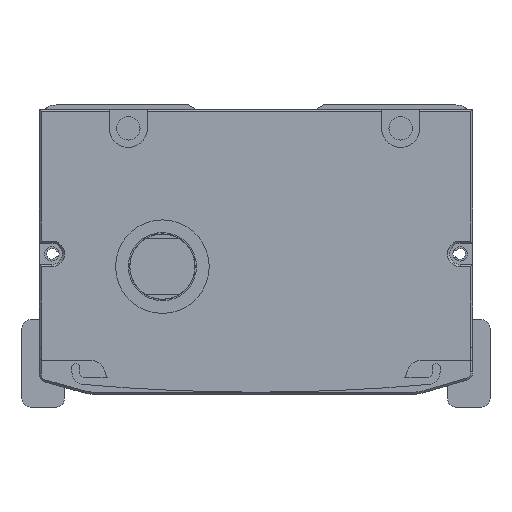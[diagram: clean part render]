
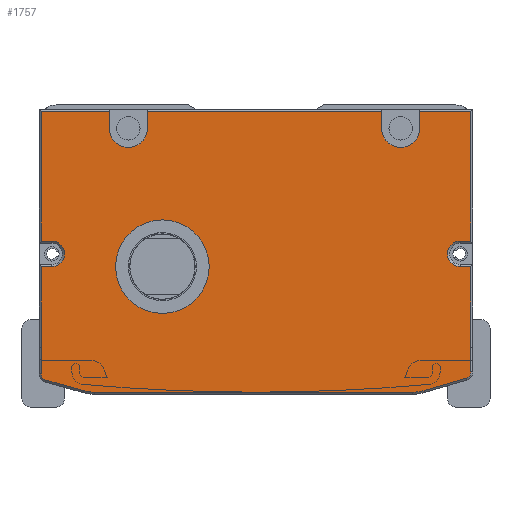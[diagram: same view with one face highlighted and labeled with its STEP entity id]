
A CAD part, front view. The second image highlights one B-rep face of the part: STEP entity #1757.
In plain terms, the highlighted planar face has unit normal (0, -1, 0).
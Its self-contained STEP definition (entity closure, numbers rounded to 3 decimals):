
#1034=FACE_BOUND('',#3651,.T.);
#1035=FACE_BOUND('',#3652,.T.);
#1757=ADVANCED_FACE('',(#1034,#1035),#2480,.F.);
#2480=PLANE('',#14782);
#3651=EDGE_LOOP('',(#6605));
#3652=EDGE_LOOP('',(#6606,#6607,#6608,#6609,#6610,#6611,#6612,#6613,#6614,
#6615,#6616,#6617,#6618,#6619,#6620,#6621,#6622,#6623,#6624,#6625,#6626,
#6627,#6628,#6629,#6630,#6631,#6632,#6633));
#4681=CIRCLE('',#14693,3.);
#4684=CIRCLE('',#14701,3.);
#4687=CIRCLE('',#14713,1.5);
#4689=CIRCLE('',#14717,9.5);
#4691=CIRCLE('',#14721,9.5);
#4693=CIRCLE('',#14725,1.5);
#4698=CIRCLE('',#14740,4.5);
#4702=CIRCLE('',#14746,4.5);
#4703=CIRCLE('',#14755,11.);
#6605=ORIENTED_EDGE('',*,*,#11184,.F.);
#6606=ORIENTED_EDGE('',*,*,#11078,.T.);
#6607=ORIENTED_EDGE('',*,*,#10974,.T.);
#6608=ORIENTED_EDGE('',*,*,#11165,.T.);
#6609=ORIENTED_EDGE('',*,*,#10978,.T.);
#6610=ORIENTED_EDGE('',*,*,#11213,.T.);
#6611=ORIENTED_EDGE('',*,*,#10984,.T.);
#6612=ORIENTED_EDGE('',*,*,#11161,.T.);
#6613=ORIENTED_EDGE('',*,*,#10988,.T.);
#6614=ORIENTED_EDGE('',*,*,#11214,.T.);
#6615=ORIENTED_EDGE('',*,*,#11082,.T.);
#6616=ORIENTED_EDGE('',*,*,#11088,.T.);
#6617=ORIENTED_EDGE('',*,*,#11091,.T.);
#6618=ORIENTED_EDGE('',*,*,#11094,.T.);
#6619=ORIENTED_EDGE('',*,*,#11096,.T.);
#6620=ORIENTED_EDGE('',*,*,#11126,.T.);
#6621=ORIENTED_EDGE('',*,*,#11130,.T.);
#6622=ORIENTED_EDGE('',*,*,#11133,.T.);
#6623=ORIENTED_EDGE('',*,*,#11136,.T.);
#6624=ORIENTED_EDGE('',*,*,#11139,.T.);
#6625=ORIENTED_EDGE('',*,*,#11142,.T.);
#6626=ORIENTED_EDGE('',*,*,#11145,.T.);
#6627=ORIENTED_EDGE('',*,*,#11147,.T.);
#6628=ORIENTED_EDGE('',*,*,#11124,.T.);
#6629=ORIENTED_EDGE('',*,*,#11114,.T.);
#6630=ORIENTED_EDGE('',*,*,#11111,.T.);
#6631=ORIENTED_EDGE('',*,*,#11108,.T.);
#6632=ORIENTED_EDGE('',*,*,#11105,.T.);
#6633=ORIENTED_EDGE('',*,*,#11100,.T.);
#9491=VERTEX_POINT('',#21787);
#9492=VERTEX_POINT('',#21789);
#9495=VERTEX_POINT('',#21796);
#9496=VERTEX_POINT('',#21798);
#9501=VERTEX_POINT('',#21809);
#9502=VERTEX_POINT('',#21811);
#9505=VERTEX_POINT('',#21818);
#9506=VERTEX_POINT('',#21820);
#9564=VERTEX_POINT('',#22006);
#9567=VERTEX_POINT('',#22014);
#9568=VERTEX_POINT('',#22015);
#9573=VERTEX_POINT('',#22026);
#9575=VERTEX_POINT('',#22032);
#9576=VERTEX_POINT('',#22037);
#9578=VERTEX_POINT('',#22043);
#9581=VERTEX_POINT('',#22051);
#9583=VERTEX_POINT('',#22057);
#9585=VERTEX_POINT('',#22063);
#9587=VERTEX_POINT('',#22069);
#9589=VERTEX_POINT('',#22075);
#9596=VERTEX_POINT('',#22099);
#9597=VERTEX_POINT('',#22103);
#9600=VERTEX_POINT('',#22110);
#9602=VERTEX_POINT('',#22116);
#9604=VERTEX_POINT('',#22122);
#9606=VERTEX_POINT('',#22128);
#9608=VERTEX_POINT('',#22134);
#9610=VERTEX_POINT('',#22140);
#9622=VERTEX_POINT('',#22213);
#10974=EDGE_CURVE('',#9492,#9491,#12639,.T.);
#10978=EDGE_CURVE('',#9496,#9495,#12643,.T.);
#10984=EDGE_CURVE('',#9502,#9501,#12649,.T.);
#10988=EDGE_CURVE('',#9506,#9505,#12653,.T.);
#11078=EDGE_CURVE('',#9564,#9492,#12726,.T.);
#11082=EDGE_CURVE('',#9567,#9568,#12730,.T.);
#11088=EDGE_CURVE('',#9568,#9573,#12736,.T.);
#11091=EDGE_CURVE('',#9573,#9575,#4681,.T.);
#11094=EDGE_CURVE('',#9575,#9576,#12740,.T.);
#11096=EDGE_CURVE('',#9576,#9578,#12742,.T.);
#11100=EDGE_CURVE('',#9581,#9564,#12746,.T.);
#11105=EDGE_CURVE('',#9583,#9581,#12751,.T.);
#11108=EDGE_CURVE('',#9585,#9583,#4684,.T.);
#11111=EDGE_CURVE('',#9587,#9585,#12755,.T.);
#11114=EDGE_CURVE('',#9589,#9587,#12758,.T.);
#11124=EDGE_CURVE('',#9596,#9589,#12766,.T.);
#11126=EDGE_CURVE('',#9578,#9597,#12768,.T.);
#11130=EDGE_CURVE('',#9597,#9600,#4687,.T.);
#11133=EDGE_CURVE('',#9600,#9602,#12773,.T.);
#11136=EDGE_CURVE('',#9602,#9604,#4689,.T.);
#11139=EDGE_CURVE('',#9604,#9606,#12777,.T.);
#11142=EDGE_CURVE('',#9606,#9608,#4691,.T.);
#11145=EDGE_CURVE('',#9608,#9610,#12781,.T.);
#11147=EDGE_CURVE('',#9610,#9596,#4693,.T.);
#11161=EDGE_CURVE('',#9501,#9506,#4698,.T.);
#11165=EDGE_CURVE('',#9491,#9496,#4702,.T.);
#11184=EDGE_CURVE('',#9622,#9622,#4703,.T.);
#11213=EDGE_CURVE('',#9495,#9502,#12832,.T.);
#11214=EDGE_CURVE('',#9505,#9567,#12833,.T.);
#12639=LINE('',#21788,#13581);
#12643=LINE('',#21797,#13585);
#12649=LINE('',#21810,#13591);
#12653=LINE('',#21819,#13595);
#12726=LINE('',#22005,#13668);
#12730=LINE('',#22013,#13672);
#12736=LINE('',#22027,#13678);
#12740=LINE('',#22039,#13682);
#12742=LINE('',#22042,#13684);
#12746=LINE('',#22050,#13688);
#12751=LINE('',#22060,#13693);
#12755=LINE('',#22072,#13697);
#12758=LINE('',#22078,#13700);
#12766=LINE('',#22098,#13708);
#12768=LINE('',#22102,#13710);
#12773=LINE('',#22117,#13715);
#12777=LINE('',#22129,#13719);
#12781=LINE('',#22141,#13723);
#12832=LINE('',#22275,#13774);
#12833=LINE('',#22276,#13775);
#13581=VECTOR('',#16945,1.);
#13585=VECTOR('',#16951,1.);
#13591=VECTOR('',#16959,1.);
#13595=VECTOR('',#16965,1.);
#13668=VECTOR('',#17132,1.);
#13672=VECTOR('',#17138,1.);
#13678=VECTOR('',#17146,1.);
#13682=VECTOR('',#17158,1.);
#13684=VECTOR('',#17162,1.);
#13688=VECTOR('',#17168,1.);
#13693=VECTOR('',#17175,1.);
#13697=VECTOR('',#17187,1.);
#13700=VECTOR('',#17192,1.);
#13708=VECTOR('',#17214,1.);
#13710=VECTOR('',#17218,1.);
#13715=VECTOR('',#17231,1.);
#13719=VECTOR('',#17243,1.);
#13723=VECTOR('',#17255,1.);
#13774=VECTOR('',#17422,1.);
#13775=VECTOR('',#17423,1.);
#14693=AXIS2_PLACEMENT_3D('',#22033,#17151,#17152);
#14701=AXIS2_PLACEMENT_3D('',#22066,#17181,#17182);
#14713=AXIS2_PLACEMENT_3D('',#22111,#17224,#17225);
#14717=AXIS2_PLACEMENT_3D('',#22123,#17236,#17237);
#14721=AXIS2_PLACEMENT_3D('',#22135,#17248,#17249);
#14725=AXIS2_PLACEMENT_3D('',#22144,#17259,#17260);
#14740=AXIS2_PLACEMENT_3D('',#22170,#17298,#17299);
#14746=AXIS2_PLACEMENT_3D('',#22178,#17310,#17311);
#14755=AXIS2_PLACEMENT_3D('',#22212,#17346,#17347);
#14782=AXIS2_PLACEMENT_3D('',#22277,#17424,#17425);
#16945=DIRECTION('',(0.,0.,-1.));
#16951=DIRECTION('',(0.,0.,1.));
#16959=DIRECTION('',(0.,0.,-1.));
#16965=DIRECTION('',(0.,0.,1.));
#17132=DIRECTION('',(-1.,0.,0.));
#17138=DIRECTION('',(0.,0.,-1.));
#17146=DIRECTION('',(1.,0.,0.));
#17151=DIRECTION('',(0.,1.,0.));
#17152=DIRECTION('',(0.,0.,1.));
#17158=DIRECTION('',(-1.,0.,0.));
#17162=DIRECTION('',(0.,0.,-1.));
#17168=DIRECTION('',(0.,0.,1.));
#17175=DIRECTION('',(1.,0.,0.));
#17181=DIRECTION('',(0.,1.,0.));
#17182=DIRECTION('',(0.,0.,1.));
#17187=DIRECTION('',(-1.,0.,0.));
#17192=DIRECTION('',(0.,0.,1.));
#17214=DIRECTION('',(0.,0.,1.));
#17218=DIRECTION('',(0.,0.,-1.));
#17224=DIRECTION('',(0.,-1.,0.));
#17225=DIRECTION('',(0.,0.,1.));
#17231=DIRECTION('',(0.963,0.,-0.269));
#17236=DIRECTION('',(0.,-1.,0.));
#17237=DIRECTION('',(0.,0.,1.));
#17243=DIRECTION('',(1.,0.,0.));
#17248=DIRECTION('',(0.,-1.,0.));
#17249=DIRECTION('',(0.,0.,1.));
#17255=DIRECTION('',(0.959,0.,0.282));
#17259=DIRECTION('',(0.,-1.,0.));
#17260=DIRECTION('',(0.,0.,1.));
#17298=DIRECTION('',(0.,1.,0.));
#17299=DIRECTION('',(0.,0.,1.));
#17310=DIRECTION('',(0.,1.,0.));
#17311=DIRECTION('',(0.,0.,1.));
#17346=DIRECTION('',(0.,-1.,0.));
#17347=DIRECTION('',(0.,0.,1.));
#17422=DIRECTION('',(-1.,0.,0.));
#17423=DIRECTION('',(-1.,0.,0.));
#17424=DIRECTION('',(0.,1.,0.));
#17425=DIRECTION('',(1.,0.,0.));
#21787=CARTESIAN_POINT('',(35.308,-457.5,-5.5));
#21788=CARTESIAN_POINT('',(35.308,-457.5,-1.));
#21789=CARTESIAN_POINT('',(35.308,-457.5,-1.5));
#21796=CARTESIAN_POINT('',(26.308,-457.5,-1.5));
#21797=CARTESIAN_POINT('',(26.308,-457.5,-1.));
#21798=CARTESIAN_POINT('',(26.308,-457.5,-5.5));
#21809=CARTESIAN_POINT('',(-28.692,-457.5,-5.5));
#21810=CARTESIAN_POINT('',(-28.692,-457.5,-1.));
#21811=CARTESIAN_POINT('',(-28.692,-457.5,-1.5));
#21818=CARTESIAN_POINT('',(-37.692,-457.5,-1.5));
#21819=CARTESIAN_POINT('',(-37.692,-457.5,-1.));
#21820=CARTESIAN_POINT('',(-37.692,-457.5,-5.5));
#22005=CARTESIAN_POINT('',(-53.692,-457.5,-1.5));
#22006=CARTESIAN_POINT('',(47.308,-457.5,-1.5));
#22013=CARTESIAN_POINT('',(-53.692,-457.5,-32.5));
#22014=CARTESIAN_POINT('',(-53.692,-457.5,-1.5));
#22015=CARTESIAN_POINT('',(-53.692,-457.5,-32.));
#22026=CARTESIAN_POINT('',(-51.192,-457.5,-32.));
#22027=CARTESIAN_POINT('',(-3.192,-457.5,-32.));
#22032=CARTESIAN_POINT('',(-51.192,-457.5,-38.));
#22033=CARTESIAN_POINT('',(-51.192,-457.5,-35.));
#22037=CARTESIAN_POINT('',(-53.692,-457.5,-38.));
#22039=CARTESIAN_POINT('',(-3.192,-457.5,-38.));
#22042=CARTESIAN_POINT('',(-53.692,-457.5,-57.));
#22043=CARTESIAN_POINT('',(-53.692,-457.5,-57.));
#22050=CARTESIAN_POINT('',(47.308,-457.5,-1.5));
#22051=CARTESIAN_POINT('',(47.308,-457.5,-32.));
#22057=CARTESIAN_POINT('',(44.808,-457.5,-32.));
#22060=CARTESIAN_POINT('',(-3.192,-457.5,-32.));
#22063=CARTESIAN_POINT('',(44.808,-457.5,-38.));
#22066=CARTESIAN_POINT('',(44.808,-457.5,-35.));
#22069=CARTESIAN_POINT('',(47.308,-457.5,-38.));
#22072=CARTESIAN_POINT('',(-3.192,-457.5,-38.));
#22075=CARTESIAN_POINT('',(47.308,-457.5,-57.));
#22078=CARTESIAN_POINT('',(47.308,-457.5,-37.5));
#22098=CARTESIAN_POINT('',(47.308,-457.5,-37.5));
#22099=CARTESIAN_POINT('',(47.308,-457.5,-62.758));
#22102=CARTESIAN_POINT('',(-53.692,-457.5,-59.712));
#22103=CARTESIAN_POINT('',(-53.692,-457.5,-63.212));
#22110=CARTESIAN_POINT('',(-52.596,-457.5,-64.657));
#22111=CARTESIAN_POINT('',(-52.192,-457.5,-63.212));
#22116=CARTESIAN_POINT('',(-43.674,-457.5,-67.15));
#22117=CARTESIAN_POINT('',(-43.674,-457.5,-67.15));
#22122=CARTESIAN_POINT('',(-41.118,-457.5,-67.5));
#22123=CARTESIAN_POINT('',(-41.118,-457.5,-58.));
#22128=CARTESIAN_POINT('',(33.631,-457.5,-67.5));
#22129=CARTESIAN_POINT('',(33.631,-457.5,-67.5));
#22134=CARTESIAN_POINT('',(36.312,-457.5,-67.114));
#22135=CARTESIAN_POINT('',(33.631,-457.5,-58.));
#22140=CARTESIAN_POINT('',(46.231,-457.5,-64.197));
#22141=CARTESIAN_POINT('',(46.231,-457.5,-64.197));
#22144=CARTESIAN_POINT('',(45.808,-457.5,-62.758));
#22170=CARTESIAN_POINT('',(-33.192,-457.5,-5.5));
#22178=CARTESIAN_POINT('',(30.808,-457.5,-5.5));
#22212=CARTESIAN_POINT('',(-25.192,-457.5,-38.));
#22213=CARTESIAN_POINT('',(-25.192,-457.5,-27.));
#22275=CARTESIAN_POINT('',(-53.692,-457.5,-1.5));
#22276=CARTESIAN_POINT('',(-53.692,-457.5,-1.5));
#22277=CARTESIAN_POINT('',(-3.192,-457.5,-1.));
